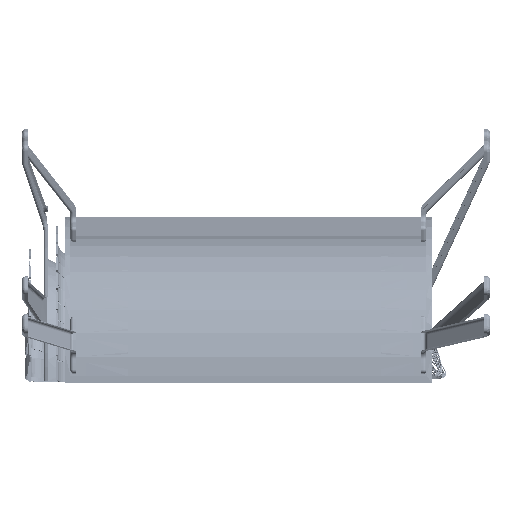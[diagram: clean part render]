
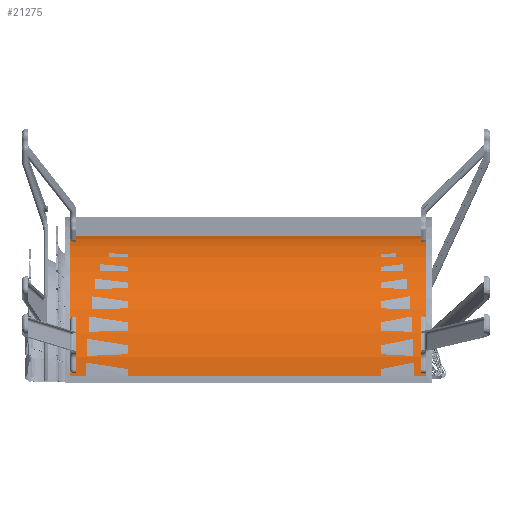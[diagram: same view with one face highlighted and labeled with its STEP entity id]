
A CAD part, left-side view. The second image highlights one B-rep face of the part: STEP entity #21275.
In plain terms, the highlighted cylindrical face has radius 145.7 mm (diameter 291.4 mm), a partial arc.
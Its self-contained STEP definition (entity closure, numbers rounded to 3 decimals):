
#10344=CYLINDRICAL_SURFACE('',#109330,145.7);
#15035=FACE_OUTER_BOUND('',#45192,.T.);
#21275=ADVANCED_FACE('',(#15035),#10344,.T.);
#30846=LINE('',#252073,#37584);
#30849=LINE('',#252077,#37587);
#37584=VECTOR('',#129089,1.);
#37587=VECTOR('',#129094,1.);
#45192=EDGE_LOOP('',(#65172,#65173,#65174,#65175));
#65172=ORIENTED_EDGE('',*,*,#93824,.T.);
#65173=ORIENTED_EDGE('',*,*,#93819,.T.);
#65174=ORIENTED_EDGE('',*,*,#93827,.F.);
#65175=ORIENTED_EDGE('',*,*,#93823,.F.);
#81664=VERTEX_POINT('',#252056);
#81667=VERTEX_POINT('',#252061);
#81669=VERTEX_POINT('',#252066);
#81671=VERTEX_POINT('',#252070);
#93819=EDGE_CURVE('',#81664,#81667,#101527,.T.);
#93823=EDGE_CURVE('',#81671,#81669,#101529,.T.);
#93824=EDGE_CURVE('',#81671,#81664,#30846,.T.);
#93827=EDGE_CURVE('',#81669,#81667,#30849,.T.);
#101527=CIRCLE('',#109323,145.7);
#101529=CIRCLE('',#109326,145.7);
#109323=AXIS2_PLACEMENT_3D('',#252062,#129077,#129078);
#109326=AXIS2_PLACEMENT_3D('',#252071,#129085,#129086);
#109330=AXIS2_PLACEMENT_3D('',#252079,#129097,#129098);
#129077=DIRECTION('',(0.,-1.,0.));
#129078=DIRECTION('',(0.,0.,-1.));
#129085=DIRECTION('',(0.,-1.,0.));
#129086=DIRECTION('',(0.,0.,1.));
#129089=DIRECTION('',(0.,1.,0.));
#129094=DIRECTION('',(0.,1.,0.));
#129097=DIRECTION('',(0.,1.,0.));
#129098=DIRECTION('',(0.,0.,1.));
#252056=CARTESIAN_POINT('',(-4.017,184.,145.645));
#252061=CARTESIAN_POINT('',(-145.697,184.,1.001));
#252062=CARTESIAN_POINT('',(0.,184.,0.));
#252066=CARTESIAN_POINT('',(-145.697,-169.,1.001));
#252070=CARTESIAN_POINT('',(-4.017,-169.,145.645));
#252071=CARTESIAN_POINT('',(0.,-169.,0.));
#252073=CARTESIAN_POINT('',(-4.017,-169.,145.645));
#252077=CARTESIAN_POINT('',(-145.697,-169.,1.001));
#252079=CARTESIAN_POINT('',(0.,-169.,0.));
